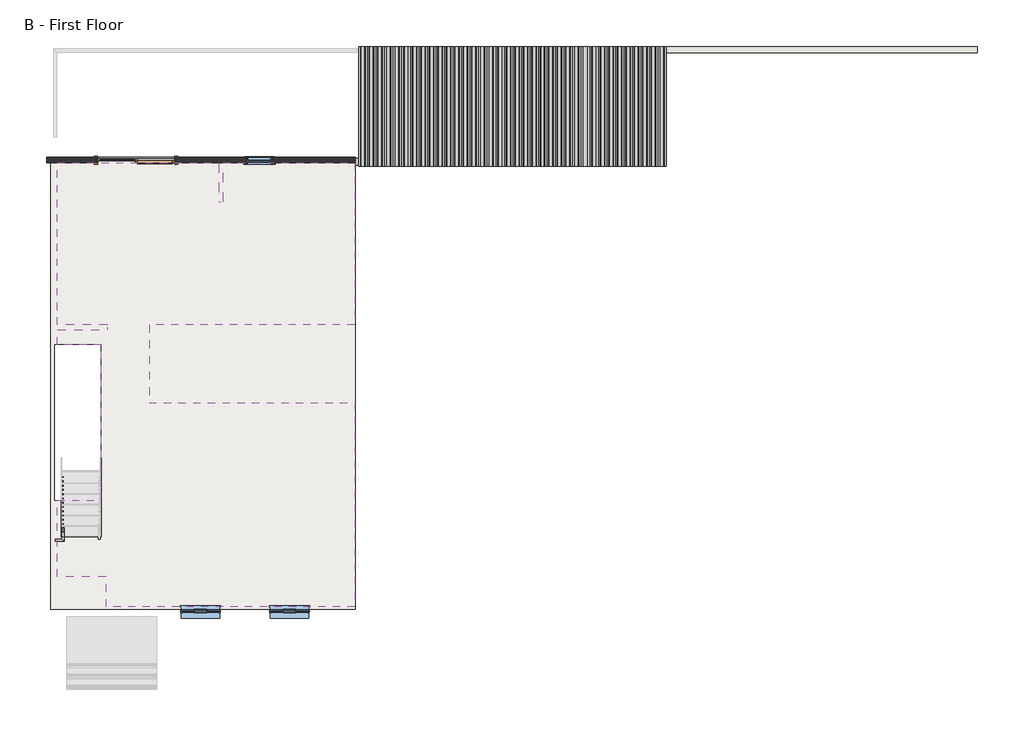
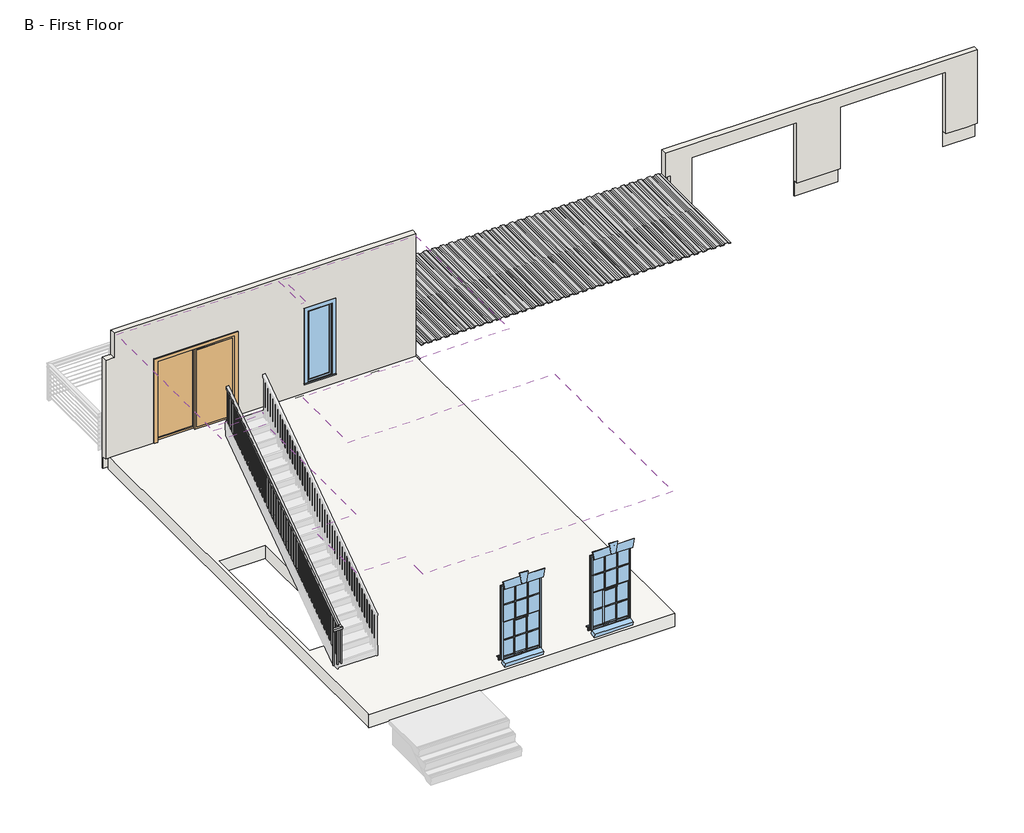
# One storey, part 1 of 2: 38 beams, 3 windows, 2 walls, 1 covering, 1 door, 1 railing, 1 slab.
"""IFC4 building model written with IfcOpenShell, lengths in millimetres."""

from ifc_helpers import new_model, si_unit, frame, origin, place, context, project, spatial, polyline, outline, extrude, faceted_brep, transform, mapped, element, save
from components import beam_0339d567, w_wide_flange_w8x24_5daaecee, w_wide_flange_w8x24_1566cf3c, door_cdccc48c, window_09c4a98c, window_32c76565

model = new_model("IFC4")

# Units and contexts
model_context = context("Model", 3, world=origin())
ifc_project = project(units=[si_unit("LENGTHUNIT", "METRE", prefix="MILLI")], contexts=[model_context])

# Site, building, storey
site = spatial("IfcSite", under=ifc_project)
building = spatial("IfcBuilding", under=site)
storey = spatial("IfcBuildingStorey", under=building, Name="B - First Floor", Elevation=609.6)

# Beams
placement = place(None, origin())
beam_shape = beam_0339d567(model_context)
element("IfcBeam", 1, ObjectType="B-Deck_Single_Flute_3d_14388 : B-Deck_Single_Flute_3d_14388", at=placement, inside=storey, context=model_context, shape_type="MappedRepresentation", body=[
    mapped(beam_shape, transform((3367.5620514, 4777.1460538, 899.6036934), x_axis=(0.0, -1.0, 0.0), y_axis=(1.0, 0.0, 0.0), z_axis=(0.0, 0.0, 1.0))),
])
element("IfcBeam", 2, ObjectType="B-Deck_Single_Flute_3d_14388 : B-Deck_Single_Flute_3d_14388", at=placement, inside=storey, context=model_context, shape_type="MappedRepresentation", body=[
    mapped(beam_shape, transform((3570.7620514, 4777.1460538, 899.6036934), x_axis=(0.0, -1.0, 0.0), y_axis=(1.0, 0.0, 0.0), z_axis=(0.0, 0.0, 1.0))),
])
element("IfcBeam", 3, ObjectType="B-Deck_Single_Flute_3d_14388 : B-Deck_Single_Flute_3d_14388", at=placement, inside=storey, context=model_context, shape_type="MappedRepresentation", body=[
    mapped(beam_shape, transform((3773.9620514, 4777.1460538, 899.6036934), x_axis=(0.0, -1.0, 0.0), y_axis=(1.0, 0.0, 0.0), z_axis=(0.0, 0.0, 1.0))),
])
element("IfcBeam", 4, ObjectType="B-Deck_Single_Flute_3d_14388 : B-Deck_Single_Flute_3d_14388", at=placement, inside=storey, context=model_context, shape_type="MappedRepresentation", body=[
    mapped(beam_shape, transform((3977.1620514, 4777.1460538, 899.6036934), x_axis=(0.0, -1.0, 0.0), y_axis=(1.0, 0.0, 0.0), z_axis=(0.0, 0.0, 1.0))),
])
element("IfcBeam", 5, ObjectType="B-Deck_Single_Flute_3d_14388 : B-Deck_Single_Flute_3d_14388", at=placement, inside=storey, context=model_context, shape_type="MappedRepresentation", body=[
    mapped(beam_shape, transform((4180.3620514, 4777.1460538, 899.6036934), x_axis=(0.0, -1.0, 0.0), y_axis=(1.0, 0.0, 0.0), z_axis=(0.0, 0.0, 1.0))),
])
element("IfcBeam", 6, ObjectType="B-Deck_Single_Flute_3d_14388 : B-Deck_Single_Flute_3d_14388", at=placement, inside=storey, context=model_context, shape_type="MappedRepresentation", body=[
    mapped(beam_shape, transform((4383.5620514, 4777.1460538, 899.6036934), x_axis=(0.0, -1.0, 0.0), y_axis=(1.0, 0.0, 0.0), z_axis=(0.0, 0.0, 1.0))),
])
element("IfcBeam", 7, ObjectType="B-Deck_Single_Flute_3d_14388 : B-Deck_Single_Flute_3d_14388", at=placement, inside=storey, context=model_context, shape_type="MappedRepresentation", body=[
    mapped(beam_shape, transform((4586.7620514, 4777.1460538, 899.6036934), x_axis=(0.0, -1.0, 0.0), y_axis=(1.0, 0.0, 0.0), z_axis=(0.0, 0.0, 1.0))),
])
element("IfcBeam", 8, ObjectType="B-Deck_Single_Flute_3d_14388 : B-Deck_Single_Flute_3d_14388", at=placement, inside=storey, context=model_context, shape_type="MappedRepresentation", body=[
    mapped(beam_shape, transform((4789.9620514, 4777.1460538, 899.6036934), x_axis=(0.0, -1.0, 0.0), y_axis=(1.0, 0.0, 0.0), z_axis=(0.0, 0.0, 1.0))),
])
element("IfcBeam", 9, ObjectType="B-Deck_Single_Flute_3d_14388 : B-Deck_Single_Flute_3d_14388", at=placement, inside=storey, context=model_context, shape_type="MappedRepresentation", body=[
    mapped(beam_shape, transform((4993.1620514, 4777.1460538, 899.6036934), x_axis=(0.0, -1.0, 0.0), y_axis=(1.0, 0.0, 0.0), z_axis=(0.0, 0.0, 1.0))),
])
element("IfcBeam", 10, ObjectType="B-Deck_Single_Flute_3d_14388 : B-Deck_Single_Flute_3d_14388", at=placement, inside=storey, context=model_context, shape_type="MappedRepresentation", body=[
    mapped(beam_shape, transform((5196.3620514, 4777.1460538, 899.6036934), x_axis=(0.0, -1.0, 0.0), y_axis=(1.0, 0.0, 0.0), z_axis=(0.0, 0.0, 1.0))),
])
element("IfcBeam", 11, ObjectType="B-Deck_Single_Flute_3d_14388 : B-Deck_Single_Flute_3d_14388", at=placement, inside=storey, context=model_context, shape_type="MappedRepresentation", body=[
    mapped(beam_shape, transform((5399.5620514, 4777.1460538, 899.6036934), x_axis=(0.0, -1.0, 0.0), y_axis=(1.0, 0.0, 0.0), z_axis=(0.0, 0.0, 1.0))),
])
element("IfcBeam", 12, ObjectType="B-Deck_Single_Flute_3d_14388 : B-Deck_Single_Flute_3d_14388", at=placement, inside=storey, context=model_context, shape_type="MappedRepresentation", body=[
    mapped(beam_shape, transform((5602.7620514, 4777.1460538, 899.6036934), x_axis=(0.0, -1.0, 0.0), y_axis=(1.0, 0.0, 0.0), z_axis=(0.0, 0.0, 1.0))),
])
element("IfcBeam", 13, ObjectType="B-Deck_Single_Flute_3d_14388 : B-Deck_Single_Flute_3d_14388", at=placement, inside=storey, context=model_context, shape_type="MappedRepresentation", body=[
    mapped(beam_shape, transform((5805.9620514, 4777.1460538, 899.6036934), x_axis=(0.0, -1.0, 0.0), y_axis=(1.0, 0.0, 0.0), z_axis=(0.0, 0.0, 1.0))),
])
element("IfcBeam", 14, ObjectType="B-Deck_Single_Flute_3d_14388 : B-Deck_Single_Flute_3d_14388", at=placement, inside=storey, context=model_context, shape_type="MappedRepresentation", body=[
    mapped(beam_shape, transform((6009.1620514, 4777.1460538, 899.6036934), x_axis=(0.0, -1.0, 0.0), y_axis=(1.0, 0.0, 0.0), z_axis=(0.0, 0.0, 1.0))),
])
element("IfcBeam", 15, ObjectType="B-Deck_Single_Flute_3d_14388 : B-Deck_Single_Flute_3d_14388", at=placement, inside=storey, context=model_context, shape_type="MappedRepresentation", body=[
    mapped(beam_shape, transform((6212.3620514, 4777.1460538, 899.6036934), x_axis=(0.0, -1.0, 0.0), y_axis=(1.0, 0.0, 0.0), z_axis=(0.0, 0.0, 1.0))),
])
element("IfcBeam", 16, ObjectType="B-Deck_Single_Flute_3d_14388 : B-Deck_Single_Flute_3d_14388", at=placement, inside=storey, context=model_context, shape_type="MappedRepresentation", body=[
    mapped(beam_shape, transform((6415.5620514, 4777.1460538, 899.6036934), x_axis=(0.0, -1.0, 0.0), y_axis=(1.0, 0.0, 0.0), z_axis=(0.0, 0.0, 1.0))),
])
element("IfcBeam", 17, ObjectType="B-Deck_Single_Flute_3d_14388 : B-Deck_Single_Flute_3d_14388", at=placement, inside=storey, context=model_context, shape_type="MappedRepresentation", body=[
    mapped(beam_shape, transform((6618.7620514, 4777.1460538, 899.6036934), x_axis=(0.0, -1.0, 0.0), y_axis=(1.0, 0.0, 0.0), z_axis=(0.0, 0.0, 1.0))),
])
element("IfcBeam", 18, ObjectType="B-Deck_Single_Flute_3d_14388 : B-Deck_Single_Flute_3d_14388", at=placement, inside=storey, context=model_context, shape_type="MappedRepresentation", body=[
    mapped(beam_shape, transform((6821.9620514, 4777.1460538, 899.6036934), x_axis=(0.0, -1.0, 0.0), y_axis=(1.0, 0.0, 0.0), z_axis=(0.0, 0.0, 1.0))),
])
element("IfcBeam", 19, ObjectType="B-Deck_Single_Flute_3d_14388 : B-Deck_Single_Flute_3d_14388", at=placement, inside=storey, context=model_context, shape_type="MappedRepresentation", body=[
    mapped(beam_shape, transform((7025.1620514, 4777.1460538, 899.6036934), x_axis=(0.0, -1.0, 0.0), y_axis=(1.0, 0.0, 0.0), z_axis=(0.0, 0.0, 1.0))),
])
element("IfcBeam", 20, ObjectType="B-Deck_Single_Flute_3d_14388 : B-Deck_Single_Flute_3d_14388", at=placement, inside=storey, context=model_context, shape_type="MappedRepresentation", body=[
    mapped(beam_shape, transform((7228.3620514, 4777.1460538, 899.6036934), x_axis=(0.0, -1.0, 0.0), y_axis=(1.0, 0.0, 0.0), z_axis=(0.0, 0.0, 1.0))),
])
element("IfcBeam", 21, ObjectType="B-Deck_Single_Flute_3d_14388 : B-Deck_Single_Flute_3d_14388", at=placement, inside=storey, context=model_context, shape_type="MappedRepresentation", body=[
    mapped(beam_shape, transform((7431.5620514, 4777.1460538, 899.6036934), x_axis=(0.0, -1.0, 0.0), y_axis=(1.0, 0.0, 0.0), z_axis=(0.0, 0.0, 1.0))),
])
element("IfcBeam", 22, ObjectType="B-Deck_Single_Flute_3d_14388 : B-Deck_Single_Flute_3d_14388", at=placement, inside=storey, context=model_context, shape_type="MappedRepresentation", body=[
    mapped(beam_shape, transform((7634.7620514, 4777.1460538, 899.6036934), x_axis=(0.0, -1.0, 0.0), y_axis=(1.0, 0.0, 0.0), z_axis=(0.0, 0.0, 1.0))),
])
element("IfcBeam", 23, ObjectType="B-Deck_Single_Flute_3d_14388 : B-Deck_Single_Flute_3d_14388", at=placement, inside=storey, context=model_context, shape_type="MappedRepresentation", body=[
    mapped(beam_shape, transform((7837.9620514, 4777.1460538, 899.6036934), x_axis=(0.0, -1.0, 0.0), y_axis=(1.0, 0.0, 0.0), z_axis=(0.0, 0.0, 1.0))),
])
element("IfcBeam", 24, ObjectType="B-Deck_Single_Flute_3d_14388 : B-Deck_Single_Flute_3d_14388", at=placement, inside=storey, context=model_context, shape_type="MappedRepresentation", body=[
    mapped(beam_shape, transform((8041.1620514, 4777.1460538, 899.6036934), x_axis=(0.0, -1.0, 0.0), y_axis=(1.0, 0.0, 0.0), z_axis=(0.0, 0.0, 1.0))),
])
element("IfcBeam", 25, ObjectType="B-Deck_Single_Flute_3d_14388 : B-Deck_Single_Flute_3d_14388", at=placement, inside=storey, context=model_context, shape_type="MappedRepresentation", body=[
    mapped(beam_shape, transform((8244.3620514, 4777.1460538, 899.6036934), x_axis=(0.0, -1.0, 0.0), y_axis=(1.0, 0.0, 0.0), z_axis=(0.0, 0.0, 1.0))),
])
element("IfcBeam", 26, ObjectType="B-Deck_Single_Flute_3d_14388 : B-Deck_Single_Flute_3d_14388", at=placement, inside=storey, context=model_context, shape_type="MappedRepresentation", body=[
    mapped(beam_shape, transform((8447.5620514, 4777.1460538, 899.6036934), x_axis=(0.0, -1.0, 0.0), y_axis=(1.0, 0.0, 0.0), z_axis=(0.0, 0.0, 1.0))),
])
element("IfcBeam", 27, ObjectType="B-Deck_Single_Flute_3d_14388 : B-Deck_Single_Flute_3d_14388", at=placement, inside=storey, context=model_context, shape_type="MappedRepresentation", body=[
    mapped(beam_shape, transform((8650.7620514, 4777.1460538, 899.6036934), x_axis=(0.0, -1.0, 0.0), y_axis=(1.0, 0.0, 0.0), z_axis=(0.0, 0.0, 1.0))),
])
element("IfcBeam", 28, ObjectType="B-Deck_Single_Flute_3d_14388 : B-Deck_Single_Flute_3d_14388", at=placement, inside=storey, context=model_context, shape_type="MappedRepresentation", body=[
    mapped(beam_shape, transform((8853.9620514, 4777.1460538, 899.6036934), x_axis=(0.0, -1.0, 0.0), y_axis=(1.0, 0.0, 0.0), z_axis=(0.0, 0.0, 1.0))),
])
element("IfcBeam", 29, ObjectType="B-Deck_Single_Flute_3d_14388 : B-Deck_Single_Flute_3d_14388", at=placement, inside=storey, context=model_context, shape_type="MappedRepresentation", body=[
    mapped(beam_shape, transform((9057.1620514, 4777.1460538, 899.6036934), x_axis=(0.0, -1.0, 0.0), y_axis=(1.0, 0.0, 0.0), z_axis=(0.0, 0.0, 1.0))),
])
element("IfcBeam", 30, ObjectType="B-Deck_Single_Flute_3d_14388 : B-Deck_Single_Flute_3d_14388", at=placement, inside=storey, context=model_context, shape_type="MappedRepresentation", body=[
    mapped(beam_shape, transform((9260.3620514, 4777.1460538, 899.6036934), x_axis=(0.0, -1.0, 0.0), y_axis=(1.0, 0.0, 0.0), z_axis=(0.0, 0.0, 1.0))),
])
element("IfcBeam", 31, ObjectType="B-Deck_Single_Flute_3d_14388 : B-Deck_Single_Flute_3d_14388", at=placement, inside=storey, context=model_context, shape_type="MappedRepresentation", body=[
    mapped(beam_shape, transform((9463.5620514, 4777.1460538, 899.6036934), x_axis=(0.0, -1.0, 0.0), y_axis=(1.0, 0.0, 0.0), z_axis=(0.0, 0.0, 1.0))),
])
element("IfcBeam", 32, ObjectType="B-Deck_Single_Flute_3d_14388 : B-Deck_Single_Flute_3d_14388", at=placement, inside=storey, context=model_context, shape_type="MappedRepresentation", body=[
    mapped(beam_shape, transform((9666.7620514, 4777.1460538, 899.6036934), x_axis=(0.0, -1.0, 0.0), y_axis=(1.0, 0.0, 0.0), z_axis=(0.0, 0.0, 1.0))),
])
element("IfcBeam", 33, ObjectType="B-Deck_Single_Flute_3d_14388 : B-Deck_Single_Flute_3d_14388", at=placement, inside=storey, context=model_context, shape_type="MappedRepresentation", body=[
    mapped(beam_shape, transform((9869.9620514, 4777.1460538, 899.6036934), x_axis=(0.0, -1.0, 0.0), y_axis=(1.0, 0.0, 0.0), z_axis=(0.0, 0.0, 1.0))),
])
element("IfcBeam", 34, ObjectType="B-Deck_Single_Flute_3d_14388 : B-Deck_Single_Flute_3d_14388", at=placement, inside=storey, context=model_context, shape_type="MappedRepresentation", body=[
    mapped(beam_shape, transform((10073.1620514, 4777.1460538, 899.6036934), x_axis=(0.0, -1.0, 0.0), y_axis=(1.0, 0.0, 0.0), z_axis=(0.0, 0.0, 1.0))),
])
element("IfcBeam", 35, ObjectType="B-Deck_Single_Flute_3d_14388 : B-Deck_Single_Flute_3d_14388", at=placement, inside=storey, context=model_context, shape_type="MappedRepresentation", body=[
    mapped(beam_shape, transform((10276.3620514, 4777.1460538, 899.6036934), x_axis=(0.0, -1.0, 0.0), y_axis=(1.0, 0.0, 0.0), z_axis=(0.0, 0.0, 1.0))),
])
element("IfcBeam", 36, ObjectType="B-Deck_Single_Flute_3d_14388 : B-Deck_Single_Flute_3d_14388", at=placement, inside=storey, context=model_context, shape_type="MappedRepresentation", body=[
    mapped(beam_shape, transform((10479.5620514, 4777.1460538, 899.6036934), x_axis=(0.0, -1.0, 0.0), y_axis=(1.0, 0.0, 0.0), z_axis=(0.0, 0.0, 1.0))),
])
w_wide_flange_w8x24_shape = w_wide_flange_w8x24_5daaecee(model_context)
element("IfcBeam", 37, ObjectType="W-Wide Flange : W8X24", at=placement, inside=storey, context=model_context, shape_type="MappedRepresentation", body=[
    mapped(w_wide_flange_w8x24_shape, transform((1443.5120514, 3462.6960538, 451.739), x_axis=(1.0, 0.0, 0.0), y_axis=(0.0, 1.0, 0.0), z_axis=(0.0, 0.0, 1.0))),
])
w_wide_flange_w8x24_2_shape = w_wide_flange_w8x24_1566cf3c(model_context)
element("IfcBeam", 38, ObjectType="W-Wide Flange : W8X24", at=placement, inside=storey, context=model_context, shape_type="MappedRepresentation", body=[
    mapped(w_wide_flange_w8x24_2_shape, transform((-2195.0379486, 3462.6960538, 451.739), x_axis=(1.0, 0.0, 0.0), y_axis=(0.0, 1.0, 0.0), z_axis=(0.0, 0.0, 1.0))),
])

# Covering
element("IfcCovering", 39, ObjectType="GWB on Furring", at=placement, inside=storey, context=model_context, shape_type="SweptSolid", body=[
    extrude(outline(polyline([(-1718.7879486, -2271.3539462), (3167.5370514, -2271.3539462), (3167.5370514, -7122.7539462), (-2741.1379486, -7122.7539462), (-2741.1379486, -6411.5539462), (-3896.8379486, -6411.5539462), (-3896.8379486, -4582.7539462), (-2858.6129486, -4582.7539462), (-2858.6129486, -887.0539462), (-3896.8379486, -887.0539462), (-3896.8379486, -531.4539462), (-2699.8629486, -531.4539462), (-2699.8629486, -417.1539462), (-3896.8379486, -417.1539462), (-3896.8379486, 3430.9460538), (-67.7879486, 3430.9460538), (-67.7879486, 2503.8460538), (46.5120514, 2503.8460538), (46.5120514, 3430.9460538), (3167.5370514, 3430.9460538), (3167.5370514, -417.1539462), (-1718.7879486, -417.1539462), (-1718.7879486, -2271.3539462)])), frame((0.0, 0.0, 3632.2), z_axis=(0.0, 0.0, 1.0), x_axis=(1.0, 0.0, 0.0)), (0.0, 0.0, 1.0), 31.75),
])

# Door
door_shape = door_cdccc48c(model_context)
element("IfcDoor", 40, ObjectType="Door-Double-Sliding : 72\" x 80\"", at=placement, inside=storey, context=model_context, shape_type="MappedRepresentation", body=[
    mapped(door_shape, transform((-2026.7629486, 3624.6210538, 609.6), x_axis=(-1.0, 0.0, 0.0), y_axis=(0.0, -1.0, 0.0), z_axis=(0.0, 0.0, 1.0))),
])

# Railing
element("IfcRailing", 41, ObjectType="Handrail - Rectangular", at=placement, inside=storey, context=model_context, shape_type="SolidModel", body=[
    faceted_brep([(-3950.8129486, -5509.8539462, 1720.5157895), (-3950.8129486, -5509.8539462, 1669.7157895), (-3950.8129486, -5560.6539462, 1669.7157895), (-3950.8129486, -5560.6539462, 1720.5157895), (-3792.0629486, -5509.8539462, 1720.5157895), (-3792.0629486, -5509.8539462, 1669.7157895), (-3741.2629486, -5560.6539462, 1669.7157895), (-3741.2629486, -5560.6539462, 1720.5157895), (-3792.0629486, -5459.0539462, 1720.5157895), (-3792.0629486, -5443.0653277, 1669.7157895), (-3741.2629486, -5443.0653277, 1669.7157895), (-3741.2629486, -5459.0539462, 1720.5157895), (-3792.0629486, -887.0539462, 4914.9), (-3741.2629486, -887.0539462, 4914.9), (-3741.2629486, -887.0539462, 4852.9290047), (-3792.0629486, -887.0539462, 4852.9290047)], [[[0, 1, 2, 3]], [[1, 0, 4, 5]], [[2, 1, 5, 6]], [[3, 2, 6, 7]], [[0, 3, 7, 4]], [[5, 4, 8, 9]], [[6, 5, 9, 10]], [[7, 6, 10, 11]], [[4, 7, 11, 8]], [[12, 13, 14, 15]], [[9, 8, 12, 15]], [[10, 9, 15, 14]], [[11, 10, 14, 13]], [[8, 11, 13, 12]]]),
    extrude(outline(polyline([(-979.1289462, 4788.597656), (-979.1289462, 3823.0342105), (-998.1789462, 3823.0342105), (-998.1789462, 4775.2877218), (-979.1289462, 4788.597656)])), frame((-3776.1879486, 0.0, 0.0), z_axis=(1.0, 0.0, 0.0), x_axis=(0.0, 1.0, 0.0)), (0.0, 0.0, 1.0), 19.05),
    extrude(outline(polyline([(-1080.7289462, 4717.6113402), (-1080.7289462, 3823.0342105), (-1099.7789462, 3823.0342105), (-1099.7789462, 4704.301406), (-1080.7289462, 4717.6113402)])), frame((-3776.1879486, 0.0, 0.0), z_axis=(1.0, 0.0, 0.0), x_axis=(0.0, 1.0, 0.0)), (0.0, 0.0, 1.0), 19.05),
    extrude(outline(polyline([(-1182.3289462, 4646.6250244), (-1182.3289462, 3645.5684211), (-1201.3789462, 3645.5684211), (-1201.3789462, 4633.3150902), (-1182.3289462, 4646.6250244)])), frame((-3776.1879486, 0.0, 0.0), z_axis=(1.0, 0.0, 0.0), x_axis=(0.0, 1.0, 0.0)), (0.0, 0.0, 1.0), 19.05),
    extrude(outline(polyline([(-1283.9289462, 4575.6387087), (-1283.9289462, 3645.5684211), (-1302.9789462, 3645.5684211), (-1302.9789462, 4562.3287744), (-1283.9289462, 4575.6387087)])), frame((-3776.1879486, 0.0, 0.0), z_axis=(1.0, 0.0, 0.0), x_axis=(0.0, 1.0, 0.0)), (0.0, 0.0, 1.0), 19.05),
    extrude(outline(polyline([(-1385.5289462, 4504.6523929), (-1385.5289462, 3645.5684211), (-1404.5789462, 3645.5684211), (-1404.5789462, 4491.3424587), (-1385.5289462, 4504.6523929)])), frame((-3776.1879486, 0.0, 0.0), z_axis=(1.0, 0.0, 0.0), x_axis=(0.0, 1.0, 0.0)), (0.0, 0.0, 1.0), 19.05),
    extrude(outline(polyline([(-1487.1289462, 4433.6660771), (-1487.1289462, 3468.1026316), (-1506.1789462, 3468.1026316), (-1506.1789462, 4420.3561429), (-1487.1289462, 4433.6660771)])), frame((-3776.1879486, 0.0, 0.0), z_axis=(1.0, 0.0, 0.0), x_axis=(0.0, 1.0, 0.0)), (0.0, 0.0, 1.0), 19.05),
    extrude(outline(polyline([(-1588.7289462, 4362.6797613), (-1588.7289462, 3468.1026316), (-1607.7789462, 3468.1026316), (-1607.7789462, 4349.3698271), (-1588.7289462, 4362.6797613)])), frame((-3776.1879486, 0.0, 0.0), z_axis=(1.0, 0.0, 0.0), x_axis=(0.0, 1.0, 0.0)), (0.0, 0.0, 1.0), 19.05),
    extrude(outline(polyline([(-1690.3289462, 4291.6934455), (-1690.3289462, 3290.6368421), (-1709.3789462, 3290.6368421), (-1709.3789462, 4278.3835113), (-1690.3289462, 4291.6934455)])), frame((-3776.1879486, 0.0, 0.0), z_axis=(1.0, 0.0, 0.0), x_axis=(0.0, 1.0, 0.0)), (0.0, 0.0, 1.0), 19.05),
    extrude(outline(polyline([(-1791.9289462, 4220.7071297), (-1791.9289462, 3290.6368421), (-1810.9789462, 3290.6368421), (-1810.9789462, 4207.3971955), (-1791.9289462, 4220.7071297)])), frame((-3776.1879486, 0.0, 0.0), z_axis=(1.0, 0.0, 0.0), x_axis=(0.0, 1.0, 0.0)), (0.0, 0.0, 1.0), 19.05),
    extrude(outline(polyline([(-1893.5289462, 4149.7208139), (-1893.5289462, 3290.6368421), (-1912.5789462, 3290.6368421), (-1912.5789462, 4136.4108797), (-1893.5289462, 4149.7208139)])), frame((-3776.1879486, 0.0, 0.0), z_axis=(1.0, 0.0, 0.0), x_axis=(0.0, 1.0, 0.0)), (0.0, 0.0, 1.0), 19.05),
    extrude(outline(polyline([(-1995.1289462, 4078.7344981), (-1995.1289462, 3113.1710526), (-2014.1789462, 3113.1710526), (-2014.1789462, 4065.4245639), (-1995.1289462, 4078.7344981)])), frame((-3776.1879486, 0.0, 0.0), z_axis=(1.0, 0.0, 0.0), x_axis=(0.0, 1.0, 0.0)), (0.0, 0.0, 1.0), 19.05),
    extrude(outline(polyline([(-2096.7289462, 4007.7481823), (-2096.7289462, 3113.1710526), (-2115.7789462, 3113.1710526), (-2115.7789462, 3994.4382481), (-2096.7289462, 4007.7481823)])), frame((-3776.1879486, 0.0, 0.0), z_axis=(1.0, 0.0, 0.0), x_axis=(0.0, 1.0, 0.0)), (0.0, 0.0, 1.0), 19.05),
    extrude(outline(polyline([(-2198.3289462, 3936.7618666), (-2198.3289462, 2935.7052632), (-2217.3789462, 2935.7052632), (-2217.3789462, 3923.4519323), (-2198.3289462, 3936.7618666)])), frame((-3776.1879486, 0.0, 0.0), z_axis=(1.0, 0.0, 0.0), x_axis=(0.0, 1.0, 0.0)), (0.0, 0.0, 1.0), 19.05),
    extrude(outline(polyline([(-2299.9289462, 3865.7755508), (-2299.9289462, 2935.7052632), (-2318.9789462, 2935.7052632), (-2318.9789462, 3852.4656166), (-2299.9289462, 3865.7755508)])), frame((-3776.1879486, 0.0, 0.0), z_axis=(1.0, 0.0, 0.0), x_axis=(0.0, 1.0, 0.0)), (0.0, 0.0, 1.0), 19.05),
    extrude(outline(polyline([(-2401.5289462, 3794.789235), (-2401.5289462, 2935.7052632), (-2420.5789462, 2935.7052632), (-2420.5789462, 3781.4793008), (-2401.5289462, 3794.789235)])), frame((-3776.1879486, 0.0, 0.0), z_axis=(1.0, 0.0, 0.0), x_axis=(0.0, 1.0, 0.0)), (0.0, 0.0, 1.0), 19.05),
    extrude(outline(polyline([(-2503.1289462, 3723.8029192), (-2503.1289462, 2758.2394737), (-2522.1789462, 2758.2394737), (-2522.1789462, 3710.492985), (-2503.1289462, 3723.8029192)])), frame((-3776.1879486, 0.0, 0.0), z_axis=(1.0, 0.0, 0.0), x_axis=(0.0, 1.0, 0.0)), (0.0, 0.0, 1.0), 19.05),
    extrude(outline(polyline([(-2604.7289462, 3652.8166034), (-2604.7289462, 2758.2394737), (-2623.7789462, 2758.2394737), (-2623.7789462, 3639.5066692), (-2604.7289462, 3652.8166034)])), frame((-3776.1879486, 0.0, 0.0), z_axis=(1.0, 0.0, 0.0), x_axis=(0.0, 1.0, 0.0)), (0.0, 0.0, 1.0), 19.05),
    extrude(outline(polyline([(-2706.3289462, 3581.8302876), (-2706.3289462, 2580.7736842), (-2725.3789462, 2580.7736842), (-2725.3789462, 3568.5203534), (-2706.3289462, 3581.8302876)])), frame((-3776.1879486, 0.0, 0.0), z_axis=(1.0, 0.0, 0.0), x_axis=(0.0, 1.0, 0.0)), (0.0, 0.0, 1.0), 19.05),
    extrude(outline(polyline([(-2807.9289462, 3510.8439718), (-2807.9289462, 2580.7736842), (-2826.9789462, 2580.7736842), (-2826.9789462, 3497.5340376), (-2807.9289462, 3510.8439718)])), frame((-3776.1879486, 0.0, 0.0), z_axis=(1.0, 0.0, 0.0), x_axis=(0.0, 1.0, 0.0)), (0.0, 0.0, 1.0), 19.05),
    extrude(outline(polyline([(-2909.5289462, 3439.857656), (-2909.5289462, 2580.7736842), (-2928.5789462, 2580.7736842), (-2928.5789462, 3426.5477218), (-2909.5289462, 3439.857656)])), frame((-3776.1879486, 0.0, 0.0), z_axis=(1.0, 0.0, 0.0), x_axis=(0.0, 1.0, 0.0)), (0.0, 0.0, 1.0), 19.05),
    extrude(outline(polyline([(-3011.1289462, 3368.8713402), (-3011.1289462, 2403.3078947), (-3030.1789462, 2403.3078947), (-3030.1789462, 3355.561406), (-3011.1289462, 3368.8713402)])), frame((-3776.1879486, 0.0, 0.0), z_axis=(1.0, 0.0, 0.0), x_axis=(0.0, 1.0, 0.0)), (0.0, 0.0, 1.0), 19.05),
    extrude(outline(polyline([(-3112.7289462, 3297.8850244), (-3112.7289462, 2403.3078947), (-3131.7789462, 2403.3078947), (-3131.7789462, 3284.5750902), (-3112.7289462, 3297.8850244)])), frame((-3776.1879486, 0.0, 0.0), z_axis=(1.0, 0.0, 0.0), x_axis=(0.0, 1.0, 0.0)), (0.0, 0.0, 1.0), 19.05),
    extrude(outline(polyline([(-3214.3289462, 3226.8987087), (-3214.3289462, 2225.8421053), (-3233.3789462, 2225.8421053), (-3233.3789462, 3213.5887744), (-3214.3289462, 3226.8987087)])), frame((-3776.1879486, 0.0, 0.0), z_axis=(1.0, 0.0, 0.0), x_axis=(0.0, 1.0, 0.0)), (0.0, 0.0, 1.0), 19.05),
    extrude(outline(polyline([(-3315.9289462, 3155.9123929), (-3315.9289462, 2225.8421053), (-3334.9789462, 2225.8421053), (-3334.9789462, 3142.6024587), (-3315.9289462, 3155.9123929)])), frame((-3776.1879486, 0.0, 0.0), z_axis=(1.0, 0.0, 0.0), x_axis=(0.0, 1.0, 0.0)), (0.0, 0.0, 1.0), 19.05),
    extrude(outline(polyline([(-3417.5289462, 3084.9260771), (-3417.5289462, 2225.8421053), (-3436.5789462, 2225.8421053), (-3436.5789462, 3071.6161429), (-3417.5289462, 3084.9260771)])), frame((-3776.1879486, 0.0, 0.0), z_axis=(1.0, 0.0, 0.0), x_axis=(0.0, 1.0, 0.0)), (0.0, 0.0, 1.0), 19.05),
    extrude(outline(polyline([(-3519.1289462, 3013.9397613), (-3519.1289462, 2048.3763158), (-3538.1789462, 2048.3763158), (-3538.1789462, 3000.6298271), (-3519.1289462, 3013.9397613)])), frame((-3776.1879486, 0.0, 0.0), z_axis=(1.0, 0.0, 0.0), x_axis=(0.0, 1.0, 0.0)), (0.0, 0.0, 1.0), 19.05),
    extrude(outline(polyline([(-3620.7289462, 2942.9534455), (-3620.7289462, 2048.3763158), (-3639.7789462, 2048.3763158), (-3639.7789462, 2929.6435113), (-3620.7289462, 2942.9534455)])), frame((-3776.1879486, 0.0, 0.0), z_axis=(1.0, 0.0, 0.0), x_axis=(0.0, 1.0, 0.0)), (0.0, 0.0, 1.0), 19.05),
    extrude(outline(polyline([(-3722.3289462, 2871.9671297), (-3722.3289462, 1870.9105263), (-3741.3789462, 1870.9105263), (-3741.3789462, 2858.6571955), (-3722.3289462, 2871.9671297)])), frame((-3776.1879486, 0.0, 0.0), z_axis=(1.0, 0.0, 0.0), x_axis=(0.0, 1.0, 0.0)), (0.0, 0.0, 1.0), 19.05),
    extrude(outline(polyline([(-3823.9289462, 2800.9808139), (-3823.9289462, 1870.9105263), (-3842.9789462, 1870.9105263), (-3842.9789462, 2787.6708797), (-3823.9289462, 2800.9808139)])), frame((-3776.1879486, 0.0, 0.0), z_axis=(1.0, 0.0, 0.0), x_axis=(0.0, 1.0, 0.0)), (0.0, 0.0, 1.0), 19.05),
    extrude(outline(polyline([(-3925.5289462, 2729.9944981), (-3925.5289462, 1870.9105263), (-3944.5789462, 1870.9105263), (-3944.5789462, 2716.6845639), (-3925.5289462, 2729.9944981)])), frame((-3776.1879486, 0.0, 0.0), z_axis=(1.0, 0.0, 0.0), x_axis=(0.0, 1.0, 0.0)), (0.0, 0.0, 1.0), 19.05),
    extrude(outline(polyline([(-4027.1289462, 2659.0081823), (-4027.1289462, 1693.4447368), (-4046.1789462, 1693.4447368), (-4046.1789462, 2645.6982481), (-4027.1289462, 2659.0081823)])), frame((-3776.1879486, 0.0, 0.0), z_axis=(1.0, 0.0, 0.0), x_axis=(0.0, 1.0, 0.0)), (0.0, 0.0, 1.0), 19.05),
    extrude(outline(polyline([(-4128.7289462, 2588.0218666), (-4128.7289462, 1693.4447368), (-4147.7789462, 1693.4447368), (-4147.7789462, 2574.7119323), (-4128.7289462, 2588.0218666)])), frame((-3776.1879486, 0.0, 0.0), z_axis=(1.0, 0.0, 0.0), x_axis=(0.0, 1.0, 0.0)), (0.0, 0.0, 1.0), 19.05),
    extrude(outline(polyline([(-4230.3289462, 2517.0355508), (-4230.3289462, 1515.9789474), (-4249.3789462, 1515.9789474), (-4249.3789462, 2503.7256166), (-4230.3289462, 2517.0355508)])), frame((-3776.1879486, 0.0, 0.0), z_axis=(1.0, 0.0, 0.0), x_axis=(0.0, 1.0, 0.0)), (0.0, 0.0, 1.0), 19.05),
    extrude(outline(polyline([(-4331.9289462, 2446.049235), (-4331.9289462, 1515.9789474), (-4350.9789462, 1515.9789474), (-4350.9789462, 2432.7393008), (-4331.9289462, 2446.049235)])), frame((-3776.1879486, 0.0, 0.0), z_axis=(1.0, 0.0, 0.0), x_axis=(0.0, 1.0, 0.0)), (0.0, 0.0, 1.0), 19.05),
    extrude(outline(polyline([(-4433.5289462, 2375.0629192), (-4433.5289462, 1515.9789474), (-4452.5789462, 1515.9789474), (-4452.5789462, 2361.752985), (-4433.5289462, 2375.0629192)])), frame((-3776.1879486, 0.0, 0.0), z_axis=(1.0, 0.0, 0.0), x_axis=(0.0, 1.0, 0.0)), (0.0, 0.0, 1.0), 19.05),
    extrude(outline(polyline([(-4535.1289462, 2304.0766034), (-4535.1289462, 1338.5131579), (-4554.1789462, 1338.5131579), (-4554.1789462, 2290.7666692), (-4535.1289462, 2304.0766034)])), frame((-3776.1879486, 0.0, 0.0), z_axis=(1.0, 0.0, 0.0), x_axis=(0.0, 1.0, 0.0)), (0.0, 0.0, 1.0), 19.05),
    extrude(outline(polyline([(-4636.7289462, 2233.0902876), (-4636.7289462, 1338.5131579), (-4655.7789462, 1338.5131579), (-4655.7789462, 2219.7803534), (-4636.7289462, 2233.0902876)])), frame((-3776.1879486, 0.0, 0.0), z_axis=(1.0, 0.0, 0.0), x_axis=(0.0, 1.0, 0.0)), (0.0, 0.0, 1.0), 19.05),
    extrude(outline(polyline([(-4738.3289462, 2162.1039718), (-4738.3289462, 1161.0473684), (-4757.3789462, 1161.0473684), (-4757.3789462, 2148.7940376), (-4738.3289462, 2162.1039718)])), frame((-3776.1879486, 0.0, 0.0), z_axis=(1.0, 0.0, 0.0), x_axis=(0.0, 1.0, 0.0)), (0.0, 0.0, 1.0), 19.05),
    extrude(outline(polyline([(-4839.9289462, 2091.117656), (-4839.9289462, 1161.0473684), (-4858.9789462, 1161.0473684), (-4858.9789462, 2077.8077218), (-4839.9289462, 2091.117656)])), frame((-3776.1879486, 0.0, 0.0), z_axis=(1.0, 0.0, 0.0), x_axis=(0.0, 1.0, 0.0)), (0.0, 0.0, 1.0), 19.05),
    extrude(outline(polyline([(-4941.5289462, 2020.1313402), (-4941.5289462, 1161.0473684), (-4960.5789462, 1161.0473684), (-4960.5789462, 2006.821406), (-4941.5289462, 2020.1313402)])), frame((-3776.1879486, 0.0, 0.0), z_axis=(1.0, 0.0, 0.0), x_axis=(0.0, 1.0, 0.0)), (0.0, 0.0, 1.0), 19.05),
    extrude(outline(polyline([(-5043.1289462, 1949.1450244), (-5043.1289462, 983.5815789), (-5062.1789462, 983.5815789), (-5062.1789462, 1935.8350902), (-5043.1289462, 1949.1450244)])), frame((-3776.1879486, 0.0, 0.0), z_axis=(1.0, 0.0, 0.0), x_axis=(0.0, 1.0, 0.0)), (0.0, 0.0, 1.0), 19.05),
    extrude(outline(polyline([(-5144.7289462, 1878.1587087), (-5144.7289462, 983.5815789), (-5163.7789462, 983.5815789), (-5163.7789462, 1864.8487744), (-5144.7289462, 1878.1587087)])), frame((-3776.1879486, 0.0, 0.0), z_axis=(1.0, 0.0, 0.0), x_axis=(0.0, 1.0, 0.0)), (0.0, 0.0, 1.0), 19.05),
    extrude(outline(polyline([(-5246.3289462, 1807.1723929), (-5246.3289462, 806.1157895), (-5265.3789462, 806.1157895), (-5265.3789462, 1793.8624587), (-5246.3289462, 1807.1723929)])), frame((-3776.1879486, 0.0, 0.0), z_axis=(1.0, 0.0, 0.0), x_axis=(0.0, 1.0, 0.0)), (0.0, 0.0, 1.0), 19.05),
    extrude(outline(polyline([(-5347.9289462, 1736.1860771), (-5347.9289462, 806.1157895), (-5366.9789462, 806.1157895), (-5366.9789462, 1722.8761429), (-5347.9289462, 1736.1860771)])), frame((-3776.1879486, 0.0, 0.0), z_axis=(1.0, 0.0, 0.0), x_axis=(0.0, 1.0, 0.0)), (0.0, 0.0, 1.0), 19.05),
    extrude(outline(polyline([(-3858.7379486, -5525.7289462), (-3839.6879486, -5525.7289462), (-3839.6879486, -5544.7789462), (-3858.7379486, -5544.7789462), (-3858.7379486, -5525.7289462)])), frame((0.0, 0.0, 806.1157895), z_axis=(0.0, 0.0, 1.0), x_axis=(1.0, 0.0, 0.0)), (0.0, 0.0, 1.0), 863.6),
    extrude(outline(polyline([(-3776.1879486, -5468.5789462), (-3776.1879486, -5449.5289462), (-3757.1379486, -5449.5289462), (-3757.1379486, -5468.5789462), (-3776.1879486, -5468.5789462)])), frame((0.0, 0.0, 806.1157895), z_axis=(0.0, 0.0, 1.0), x_axis=(1.0, 0.0, 0.0)), (0.0, 0.0, 1.0), 863.6),
    extrude(outline(polyline([(-3776.1879486, -5525.7289462), (-3757.1379486, -5525.7289462), (-3757.1379486, -5544.7789462), (-3776.1879486, -5544.7789462), (-3776.1879486, -5525.7289462)])), frame((0.0, 0.0, 806.1157895), z_axis=(0.0, 0.0, 1.0), x_axis=(1.0, 0.0, 0.0)), (0.0, 0.0, 1.0), 863.6),
    extrude(outline(polyline([(-887.0539462, 4852.9290047), (-887.0539462, 3823.0342105), (-906.1039462, 3823.0342105), (-906.1039462, 4839.6190705), (-887.0539462, 4852.9290047)])), frame((-3776.1879486, 0.0, 0.0), z_axis=(1.0, 0.0, 0.0), x_axis=(0.0, 1.0, 0.0)), (0.0, 0.0, 1.0), 19.05),
    extrude(outline(polyline([(-3950.8129486, -5525.7289462), (-3931.7629486, -5525.7289462), (-3931.7629486, -5544.7789462), (-3950.8129486, -5544.7789462), (-3950.8129486, -5525.7289462)])), frame((0.0, 0.0, 806.1157895), z_axis=(0.0, 0.0, 1.0), x_axis=(1.0, 0.0, 0.0)), (0.0, 0.0, 1.0), 863.6),
])

# Slab
element("IfcSlab", 42, ObjectType="Wood Truss  Joist 12\"", at=placement, inside=storey, context=model_context, shape_type="Brep", body=[
    faceted_brep([(3181.6520058, 3488.0960538, 288.925), (3181.6520058, -7179.9039462, 288.925), (-4055.5879486, -7179.9039462, 288.925), (-4055.5879486, -7122.7539462, 288.925), (-4055.5879486, 3488.0960538, 288.925), (-3950.8129486, 3488.0960538, 288.925), (-3960.3379486, -4582.7539462, 288.925), (-3950.8129486, -4582.7539462, 288.925), (-2868.1379486, -4582.7539462, 288.925), (-2868.1379486, -887.0539462, 288.925), (-3950.8129486, -887.0539462, 288.925), (-3960.3379486, -887.0539462, 288.925), (3181.6520058, -7179.9039462, 609.6), (3181.6520058, 3488.0960538, 609.6), (-3950.8129486, 3488.0960538, 609.6), (-4055.5879486, 3488.0960538, 609.6), (-4055.5879486, 3430.9460538, 609.6), (-4055.5879486, -7122.7539462, 609.6), (-4055.5879486, -7179.9039462, 609.6), (-2868.1379486, -4582.7539462, 609.6), (-3950.8129486, -4582.7539462, 609.6), (-3960.3379486, -4582.7539462, 609.6), (-3960.3379486, -887.0539462, 609.6), (-3950.8129486, -887.0539462, 609.6), (-2868.1379486, -887.0539462, 609.6)], [[[0, 1, 2, 3, 4, 5], [6, 7, 8, 9, 10, 11]], [[12, 13, 14, 15, 16, 17, 18], [19, 20, 21, 22, 23, 24]], [[1, 0, 13, 12]], [[2, 1, 12, 18]], [[0, 5, 4, 15, 14, 13]], [[6, 21, 20, 19, 8, 7]], [[8, 19, 24, 9]], [[9, 24, 23, 22, 11, 10]], [[21, 6, 11, 22]], [[4, 3, 2, 18, 17, 16, 15]]]),
])

# Walls
element("IfcWall", 43, ObjectType="Exterior - Wood Siding on Wood Stud", at=placement, inside=storey, context=model_context, shape_type="Brep", body=[
    faceted_brep([(3183.4120514, 3430.9460538, 3683.0), (-3950.8129486, 3430.9460538, 3683.0), (-3950.8129486, 3430.9460538, 3073.4), (-4157.1879486, 3430.9460538, 3073.4), (-4157.1879486, 3430.9460538, 609.6), (-3950.8129486, 3430.9460538, 609.6), (-2941.1629486, 3430.9460538, 609.6), (-2941.1629486, 3430.9460538, 2641.6), (-1112.3629486, 3430.9460538, 2641.6), (-1112.3629486, 3430.9460538, 609.6), (3183.4120514, 3430.9460538, 609.6), (600.5495514, 3430.9460538, 2667.0), (1210.1495514, 3430.9460538, 2667.0), (1210.1495514, 3430.9460538, 838.2), (600.5495514, 3430.9460538, 838.2), (-3950.8129486, 3564.2960538, 3683.0), (3183.4120514, 3564.2960538, 3683.0), (3183.4120514, 3564.2960538, 304.8), (-4157.1879486, 3564.2960538, 304.8), (-4157.1879486, 3564.2960538, 609.6), (-4157.1879486, 3564.2960538, 3003.55), (-4157.1879486, 3564.2960538, 3073.4), (-4011.1379486, 3564.2960538, 3073.4), (-3950.8129486, 3564.2960538, 3073.4), (-1112.3629486, 3564.2960538, 609.6), (-1112.3629486, 3564.2960538, 2641.6), (-2941.1629486, 3564.2960538, 2641.6), (-2941.1629486, 3564.2960538, 609.6), (600.5495514, 3564.2960538, 2667.0), (600.5495514, 3564.2960538, 838.2), (1210.1495514, 3564.2960538, 838.2), (1210.1495514, 3564.2960538, 2667.0), (-3950.8129486, 3497.6210538, 3683.0), (3183.4120514, 3545.2460538, 609.6), (-1112.3629486, 3545.2460538, 609.6), (-4157.1879486, 3497.6210538, 609.6), (-4157.1879486, 3545.2460538, 609.6), (-2941.1629486, 3545.2460538, 609.6), (-4157.1879486, 3545.2460538, 304.8), (3183.4120514, 3545.2460538, 304.8)], [[[0, 1, 2, 3, 4, 5, 6, 7, 8, 9, 10], [11, 12, 13, 14]], [[15, 16, 17, 18, 19, 20, 21, 22, 23], [24, 25, 26, 27], [28, 29, 30, 31]], [[1, 0, 16, 15, 32]], [[33, 10, 9, 34]], [[4, 35, 36, 37, 6, 5]], [[38, 39, 33, 34, 37, 36]], [[8, 25, 24, 34, 9]], [[34, 24, 27, 37]], [[37, 27, 26, 7, 6]], [[25, 8, 7, 26]], [[29, 28, 11, 14]], [[30, 29, 14, 13]], [[31, 30, 13, 12]], [[28, 31, 12, 11]], [[16, 0, 10, 33, 39, 17]], [[4, 3, 21, 20, 19, 18, 38, 36, 35]], [[2, 1, 32, 15, 23]], [[18, 17, 39, 38]], [[23, 22, 21, 3, 2]]]),
])
element("IfcWall", 44, ObjectType="Exterior - Wood Siding on Wood Stud", at=placement, inside=storey, context=model_context, shape_type="Brep", body=[
    faceted_brep([(10590.6870514, 6190.0210538, 1504.95), (17975.7370514, 6190.0210538, 1504.95), (17975.7370514, 6190.0210538, -730.25), (17226.4370514, 6190.0210538, -730.25), (17226.4370514, 6190.0210538, 1200.15), (14737.2370514, 6190.0210538, 1200.15), (14737.2370514, 6190.0210538, -730.25), (13708.5370514, 6190.0210538, -730.25), (13708.5370514, 6190.0210538, 1174.75), (11219.3370514, 6190.0210538, 1174.75), (11219.3370514, 6190.0210538, -730.25), (10724.0370514, 6190.0210538, -730.25), (10724.0370514, 6190.0210538, 895.35), (10590.6870514, 6190.0210538, 895.35), (17975.7370514, 6056.6710538, 1504.95), (17721.7370514, 6056.6710538, 1504.95), (10590.6870514, 6056.6710538, 1504.95), (10590.6870514, 6056.6710538, 895.35), (10724.0370514, 6056.6710538, 895.35), (10724.0370514, 6056.6710538, -336.55), (11219.3370514, 6056.6710538, -336.55), (11219.3370514, 6056.6710538, 1174.75), (13708.5370514, 6056.6710538, 1174.75), (13708.5370514, 6056.6710538, -336.55), (14737.2370514, 6056.6710538, -336.55), (14737.2370514, 6056.6710538, 1200.15), (17226.4370514, 6056.6710538, 1200.15), (17226.4370514, 6056.6710538, -336.55), (17721.7370514, 6056.6710538, -336.55), (17975.7370514, 6056.6710538, -336.55), (14737.2370514, 6170.9710538, -336.55), (13708.5370514, 6170.9710538, -336.55), (10724.0370514, 6170.9710538, -336.55), (11219.3370514, 6170.9710538, -336.55), (17226.4370514, 6170.9710538, -336.55), (17975.7370514, 6170.9710538, -336.55), (17975.7370514, 6158.2710538, -336.55), (17226.4370514, 6170.9710538, -730.25), (17975.7370514, 6170.9710538, -730.25), (14737.2370514, 6170.9710538, -730.25), (13708.5370514, 6170.9710538, -730.25), (10724.0370514, 6170.9710538, -730.25), (11219.3370514, 6170.9710538, -730.25), (10724.0370514, 6170.9710538, -666.75)], [[[0, 1, 2, 3, 4, 5, 6, 7, 8, 9, 10, 11, 12, 13]], [[14, 15, 16, 17, 18, 19, 20, 21, 22, 23, 24, 25, 26, 27, 28, 29]], [[1, 0, 16, 15, 14]], [[30, 24, 23, 31]], [[20, 19, 32, 33]], [[29, 28, 27, 34, 35, 36]], [[37, 38, 35, 34]], [[39, 30, 31, 40]], [[41, 42, 33, 32, 43]], [[3, 2, 38, 37]], [[6, 39, 40, 7]], [[11, 10, 42, 41]], [[26, 4, 3, 37, 34, 27]], [[4, 26, 25, 5]], [[5, 25, 24, 30, 39, 6]], [[22, 8, 7, 40, 31, 23]], [[8, 22, 21, 9]], [[9, 21, 20, 33, 42, 10]], [[2, 1, 14, 29, 36, 35, 38]], [[13, 12, 18, 17]], [[32, 19, 18, 12, 11, 41, 43]], [[16, 0, 13, 17]]]),
])

# Windows
window_shape = window_09c4a98c(model_context)
element("IfcWindow", 45, ObjectType="Fixed with Trim : 24\" x 72\"", at=placement, inside=storey, context=model_context, shape_type="MappedRepresentation", body=[
    mapped(window_shape, transform((867.2495514, 3497.6210538, 533.4), x_axis=(-1.0, 0.0, 0.0), y_axis=(0.0, -1.0, 0.0), z_axis=(0.0, 0.0, 1.0))),
])
window_2_shape = window_32c76565(model_context)
element("IfcWindow", 46, ObjectType="Single_Hung_Aluminum_Window_at_Brick_L : 36\"x72\"", at=placement, inside=storey, context=model_context, shape_type="MappedRepresentation", body=[
    mapped(window_2_shape, transform((1464.578409, -7238.6414462, 330.2), x_axis=(-1.0, 0.0, 0.0), y_axis=(0.0, -1.0, 0.0), z_axis=(0.0, 0.0, 1.0))),
])
element("IfcWindow", 47, ObjectType="Single_Hung_Aluminum_Window_at_Brick_L : 36\"x72\"", at=placement, inside=storey, context=model_context, shape_type="MappedRepresentation", body=[
    mapped(window_2_shape, transform((-649.5192698, -7238.6414462, 330.2), x_axis=(-1.0, 0.0, 0.0), y_axis=(0.0, -1.0, 0.0), z_axis=(0.0, 0.0, 1.0))),
])

save(model, "model.ifc")
